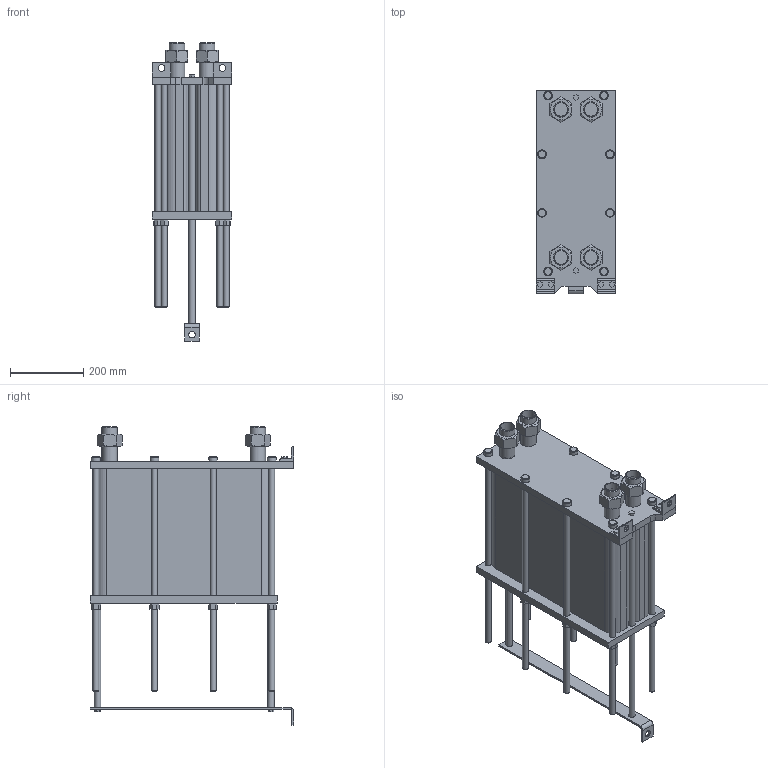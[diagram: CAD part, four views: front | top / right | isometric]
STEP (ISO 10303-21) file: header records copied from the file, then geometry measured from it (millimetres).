
FILE_DESCRIPTION(/* description */ (''),/* implementation_level */ '2;1');
FILE_NAME(/* name */ 'C:\Users\zhuro\Desktop\ENCO\TO\ЭН-004\ЭН-0,5-004-112-1.stp',/* time_stamp */ '2022-06-06T10:53:42+03:00',/* author */ ('zhuro'),/* organization */ (''),/* preprocessor_version */ 'ST-DEVELOPER v18.1',/* originating_system */ 'Autodesk Inventor 2022',/* authorisation */ '');
FILE_SCHEMA (('AUTOMOTIVE_DESIGN { 1 0 10303 214 3 1 1 }'));
Length unit declared in the file: millimetre
Products named in the file (1): ЭН-0,5-004-112-1
Bounding box: 216 x 555 x 814.6 mm (x, y, z)
Volume: 31835332.9 mm3; surface area: 1710385.6 mm2
Topology: 40 solids, 40 shells, 403 faces, 865 edges, 574 vertices
Faces by surface type: plane 272, cylinder 103, cone 28
Full cylindrical faces by diameter (mm): 10 x4, 16 x16, 18 x29, 20 x2, 24 x8, 28 x8, 36.3 x5, 42.3 x9
Entity records: 11137 total; most frequent: CARTESIAN_POINT 1939, DIRECTION 1879, ORIENTED_EDGE 1730, EDGE_CURVE 865, AXIS2_PLACEMENT_3D 658, VERTEX_POINT 574, LINE 563, VECTOR 563
